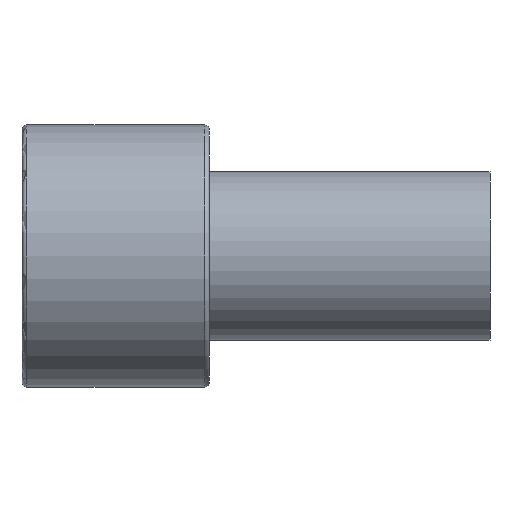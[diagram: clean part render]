
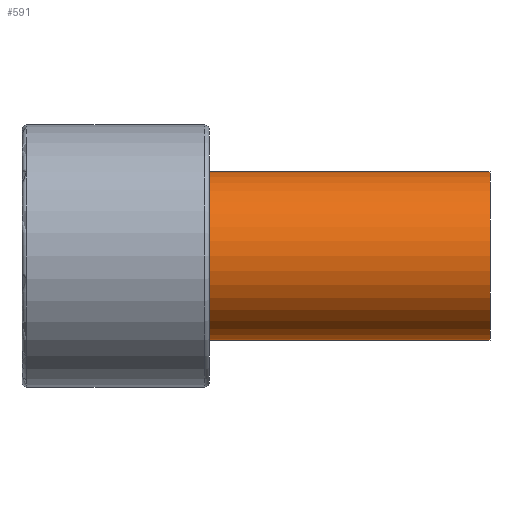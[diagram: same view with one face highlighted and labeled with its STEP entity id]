
A CAD part, front view. The second image highlights one B-rep face of the part: STEP entity #591.
In plain terms, the highlighted cylindrical face has radius 9 mm (diameter 18 mm), a partial arc.
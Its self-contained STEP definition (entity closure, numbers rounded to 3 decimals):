
#425=CARTESIAN_POINT('Vertex',(50.,0.,9.)) ;
#428=CARTESIAN_POINT('Axis2P3D Location',(50.,0.,0.)) ;
#432=CARTESIAN_POINT('Vertex',(50.,-9.,0.)) ;
#435=CARTESIAN_POINT('Axis2P3D Location',(50.,0.,0.)) ;
#439=CARTESIAN_POINT('Vertex',(50.,0.,-9.)) ;
#531=CARTESIAN_POINT('Line Origine',(50.,0.,9.)) ;
#535=CARTESIAN_POINT('Vertex',(20.,0.,9.)) ;
#538=CARTESIAN_POINT('Line Origine',(50.,0.,-9.)) ;
#542=CARTESIAN_POINT('Vertex',(20.,0.,-9.)) ;
#566=CARTESIAN_POINT('Axis2P3D Location',(50.,0.,0.)) ;
#571=CARTESIAN_POINT('Axis2P3D Location',(20.,0.,0.)) ;
#575=CARTESIAN_POINT('Vertex',(20.,-9.,0.)) ;
#578=CARTESIAN_POINT('Axis2P3D Location',(20.,0.,0.)) ;
#429=DIRECTION('Axis2P3D Direction',(1.,0.,-0.)) ;
#436=DIRECTION('Axis2P3D Direction',(1.,0.,-0.)) ;
#532=DIRECTION('Vector Direction',(-1.,0.,0.)) ;
#539=DIRECTION('Vector Direction',(-1.,0.,0.)) ;
#567=DIRECTION('Axis2P3D Direction',(-1.,-0.,-0.)) ;
#568=DIRECTION('Axis2P3D XDirection',(0.,0.,-1.)) ;
#572=DIRECTION('Axis2P3D Direction',(-1.,-0.,-0.)) ;
#579=DIRECTION('Axis2P3D Direction',(-1.,-0.,-0.)) ;
#430=AXIS2_PLACEMENT_3D('Circle Axis2P3D',#428,#429,$) ;
#437=AXIS2_PLACEMENT_3D('Circle Axis2P3D',#435,#436,$) ;
#569=AXIS2_PLACEMENT_3D('Cylinder Axis2P3D',#566,#567,#568) ;
#573=AXIS2_PLACEMENT_3D('Circle Axis2P3D',#571,#572,$) ;
#580=AXIS2_PLACEMENT_3D('Circle Axis2P3D',#578,#579,$) ;
#584=ORIENTED_EDGE('',*,*,#544,.T.) ;
#585=ORIENTED_EDGE('',*,*,#441,.F.) ;
#586=ORIENTED_EDGE('',*,*,#434,.F.) ;
#587=ORIENTED_EDGE('',*,*,#537,.T.) ;
#588=ORIENTED_EDGE('',*,*,#577,.T.) ;
#589=ORIENTED_EDGE('',*,*,#582,.T.) ;
#533=VECTOR('Line Direction',#532,1.) ;
#540=VECTOR('Line Direction',#539,1.) ;
#591=ADVANCED_FACE('367-18X50',(#590),#570,.T.) ;
#431=CIRCLE('generated circle',#430,9.) ;
#438=CIRCLE('generated circle',#437,9.) ;
#574=CIRCLE('generated circle',#573,9.) ;
#581=CIRCLE('generated circle',#580,9.) ;
#570=CYLINDRICAL_SURFACE('generated cylinder',#569,9.) ;
#434=EDGE_CURVE('',#426,#433,#431,.T.) ;
#441=EDGE_CURVE('',#433,#440,#438,.T.) ;
#537=EDGE_CURVE('',#426,#536,#534,.T.) ;
#544=EDGE_CURVE('',#543,#440,#541,.F.) ;
#577=EDGE_CURVE('',#536,#576,#574,.F.) ;
#582=EDGE_CURVE('',#576,#543,#581,.F.) ;
#583=EDGE_LOOP('',(#584,#585,#586,#587,#588,#589)) ;
#590=FACE_OUTER_BOUND('',#583,.T.) ;
#534=LINE('Line',#531,#533) ;
#541=LINE('Line',#538,#540) ;
#426=VERTEX_POINT('',#425) ;
#433=VERTEX_POINT('',#432) ;
#440=VERTEX_POINT('',#439) ;
#536=VERTEX_POINT('',#535) ;
#543=VERTEX_POINT('',#542) ;
#576=VERTEX_POINT('',#575) ;
